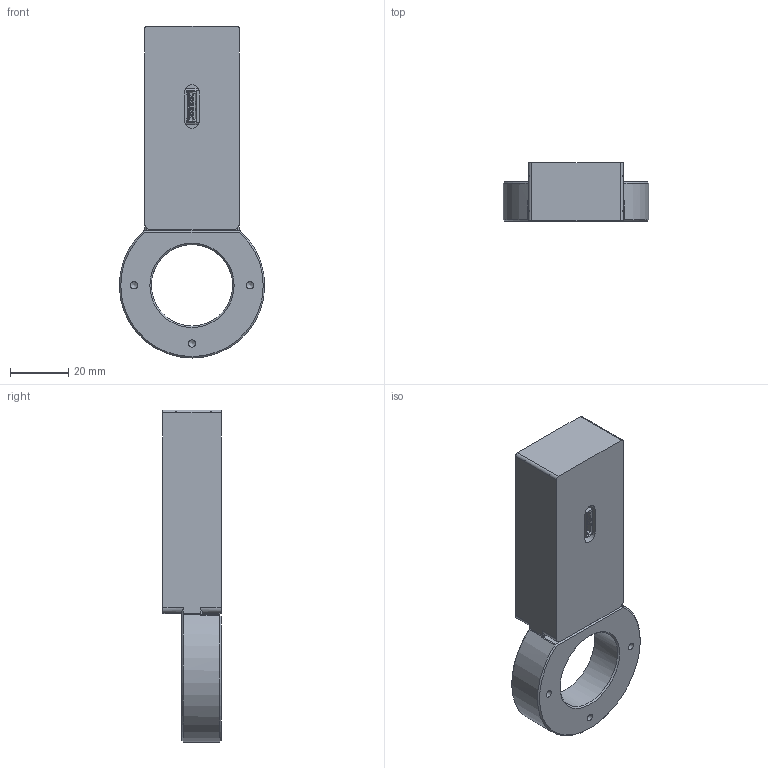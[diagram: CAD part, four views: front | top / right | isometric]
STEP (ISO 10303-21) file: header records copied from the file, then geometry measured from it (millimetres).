
FILE_DESCRIPTION (( 'STEP AP214' ), '1' );
FILE_NAME ('LR_40-15-APTD-00.STEP', '2026-02-04T06:39:47', ( '' ), ( '' ), 'SwSTEP 2.0', 'SolidWorks 2022', '' );
FILE_SCHEMA (( 'AUTOMOTIVE_DESIGN' ));
Length unit declared in the file: millimetre
Products named in the file (1): LR_40-15-APTD-00
Bounding box: 50 x 20 x 114.2 mm (x, y, z)
Volume: 60851 mm3; surface area: 14282.7 mm2
Topology: 1 solids, 2 shells, 188 faces, 475 edges, 308 vertices
Faces by surface type: plane 145, cylinder 19, cone 18, torus 4, bspline 2
Full cylindrical faces by diameter (mm): 2.5 x3, 28 x1
Entity records: 6815 total; most frequent: CARTESIAN_POINT 1193, ORIENTED_EDGE 922, DIRECTION 854, EDGE_CURVE 461, VECTOR 384, LINE 384, VERTEX_POINT 304, AXIS2_PLACEMENT_3D 235
